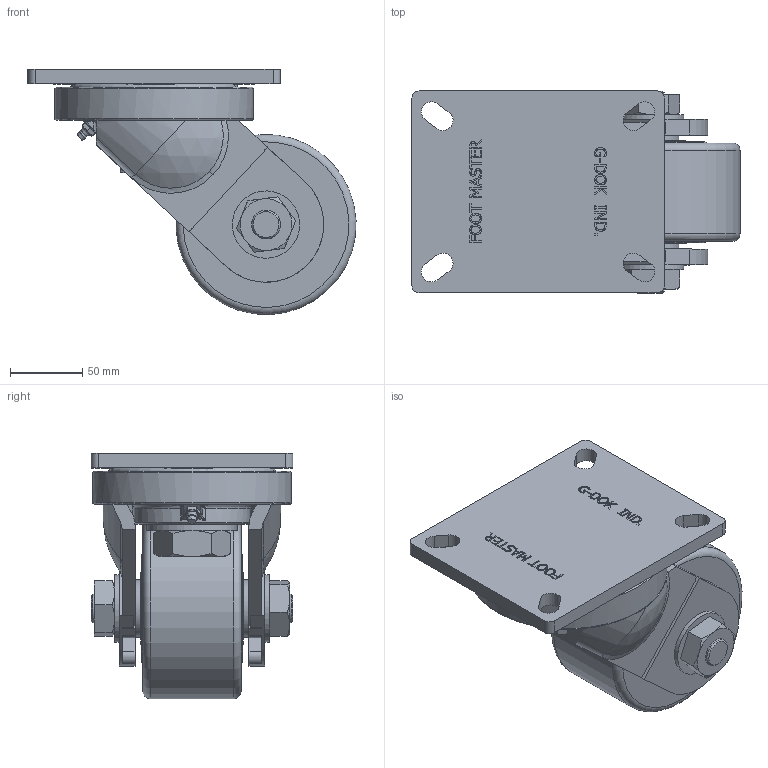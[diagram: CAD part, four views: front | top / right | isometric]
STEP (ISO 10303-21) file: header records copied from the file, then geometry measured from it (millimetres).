
FILE_DESCRIPTION((''),'2;1');
FILE_NAME('C:\Documents and Settings\Administrator\바탕 화면\3D STEP\GXT-SERIES\GXT-125\GXT-125-SF(MCD).stp','2010-12-27T14:41:15',('Administrator'),(''),'Autodesk Inventor 2009','Autodesk Inventor 2009','');
FILE_SCHEMA(('AUTOMOTIVE_DESIGN { 1 0 10303 214 1 1 1 1 }'));
Length unit declared in the file: millimetre
Products named in the file (1): GXT-125-SF(MCD)
Bounding box: 227.59 x 140 x 170.04 mm (x, y, z)
Volume: 1722567.5 mm3; surface area: 247875 mm2
Topology: 2 solids, 2 shells, 602 faces, 1617 edges, 1072 vertices
Faces by surface type: plane 328, bspline 128, cylinder 99, cone 29, torus 14, sphere 4
Full cylindrical faces by diameter (mm): 5 x1, 6 x1, 18 x2, 20 x6, 20.3 x2, 24.3 x2, 25 x2, 26 x2, 30 x2, 35 x1, 35.667 x4, 40 x2, 41.333 x4, 45 x1, 46.7 x2, 48.5 x1, 55 x1, 56 x1, 57 x1, 62 x1, 62.5 x1, 78 x2, 80 x1, 125 x1, 138 x1
Entity records: 21322 total; most frequent: CARTESIAN_POINT 7391, ORIENTED_EDGE 2976, DIRECTION 2527, EDGE_CURVE 1488, VERTEX_POINT 1037, VECTOR 853, LINE 853, AXIS2_PLACEMENT_3D 837
